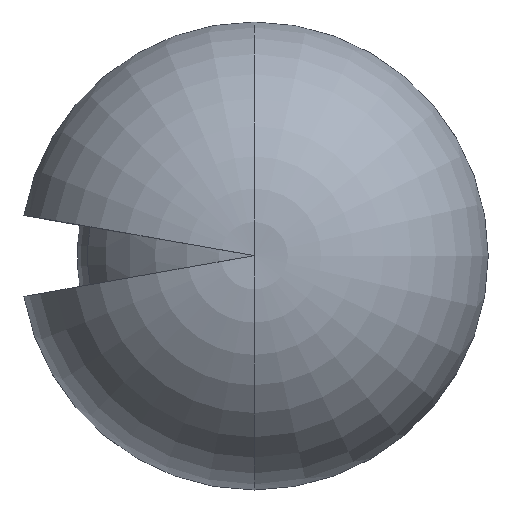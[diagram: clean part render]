
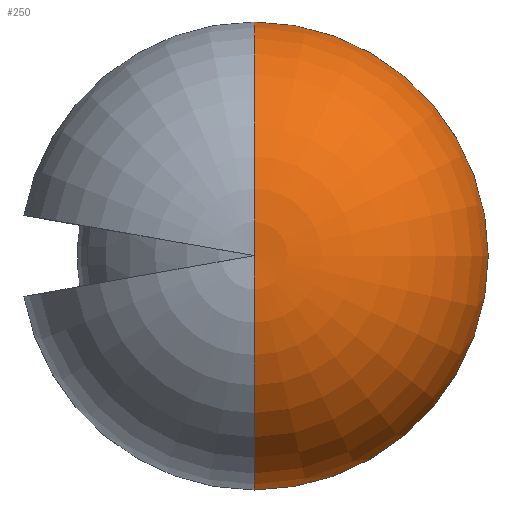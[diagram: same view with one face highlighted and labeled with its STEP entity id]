
A CAD part, top view. The second image highlights one B-rep face of the part: STEP entity #250.
In plain terms, the highlighted toroidal (fillet/blend) face has major radius 320 mm and minor radius 2784.9 mm.
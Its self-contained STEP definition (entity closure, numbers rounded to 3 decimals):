
#5 = FACE_OUTER_BOUND ( 'NONE', #388, .T. ) ;
#36 = CIRCLE ( 'NONE', #71, 2784.903 ) ;
#47 = CARTESIAN_POINT ( 'NONE',  ( 0., -3094.306, 1022.72 ) ) ;
#52 = DIRECTION ( 'NONE',  ( 0., 1., 0. ) ) ;
#56 = AXIS2_PLACEMENT_3D ( 'NONE', #207, #204, #444 ) ;
#64 = TOROIDAL_SURFACE ( 'NONE', #56, 320., 2784.903 ) ;
#68 = EDGE_CURVE ( 'NONE', #453, #169, #36, .T. ) ;
#71 = AXIS2_PLACEMENT_3D ( 'NONE', #117, #469, #182 ) ;
#109 = DIRECTION ( 'NONE',  ( 0., 0., -1. ) ) ;
#117 = CARTESIAN_POINT ( 'NONE',  ( 0., 320., 780. ) ) ;
#148 = DIRECTION ( 'NONE',  ( 0., 1., 0. ) ) ;
#151 = CIRCLE ( 'NONE', #409, 3094.306 ) ;
#160 = ORIENTED_EDGE ( 'NONE', *, *, #299, .T. ) ;
#169 = VERTEX_POINT ( 'NONE', #365 ) ;
#182 = DIRECTION ( 'NONE',  ( 0., 0., 1. ) ) ;
#195 = VERTEX_POINT ( 'NONE', #47 ) ;
#202 = AXIS2_PLACEMENT_3D ( 'NONE', #245, #405, #52 ) ;
#204 = DIRECTION ( 'NONE',  ( 0., 0., -1. ) ) ;
#207 = CARTESIAN_POINT ( 'NONE',  ( 0., 0., 780. ) ) ;
#219 = CIRCLE ( 'NONE', #202, 2784.903 ) ;
#245 = CARTESIAN_POINT ( 'NONE',  ( 0., -320., 780. ) ) ;
#250 = ADVANCED_FACE ( 'NONE', ( #5 ), #64, .T. ) ;
#289 = ORIENTED_EDGE ( 'NONE', *, *, #497, .F. ) ;
#299 = EDGE_CURVE ( 'NONE', #453, #195, #219, .T. ) ;
#365 = CARTESIAN_POINT ( 'NONE',  ( 0., 3094.306, 1022.72 ) ) ;
#378 = CARTESIAN_POINT ( 'NONE',  ( 0., 0., 3546.457 ) ) ;
#388 = EDGE_LOOP ( 'NONE', ( #398, #160, #289 ) ) ;
#389 = CARTESIAN_POINT ( 'NONE',  ( 0., 0., 1022.72 ) ) ;
#398 = ORIENTED_EDGE ( 'NONE', *, *, #68, .F. ) ;
#405 = DIRECTION ( 'NONE',  ( 1., 0., 0. ) ) ;
#409 = AXIS2_PLACEMENT_3D ( 'NONE', #389, #109, #148 ) ;
#444 = DIRECTION ( 'NONE',  ( 0., 1., 0. ) ) ;
#453 = VERTEX_POINT ( 'NONE', #378 ) ;
#469 = DIRECTION ( 'NONE',  ( -1., 0., 0. ) ) ;
#497 = EDGE_CURVE ( 'NONE', #169, #195, #151, .T. ) ;
